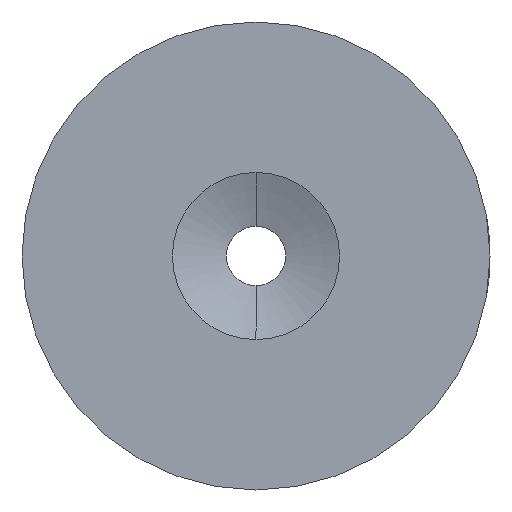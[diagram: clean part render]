
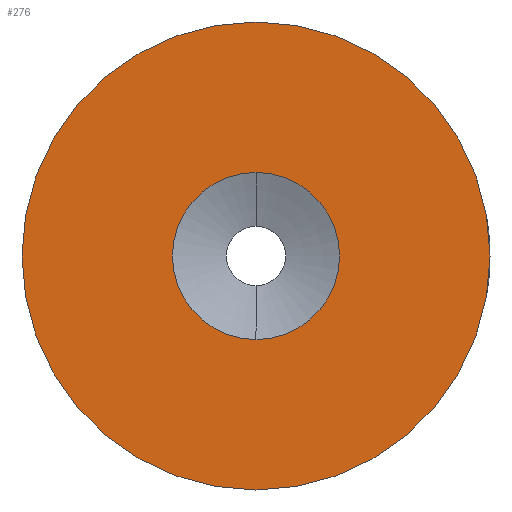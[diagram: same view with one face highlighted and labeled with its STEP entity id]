
A CAD part, left-side view. The second image highlights one B-rep face of the part: STEP entity #276.
In plain terms, the highlighted planar face has unit normal (-1, 0, 0).
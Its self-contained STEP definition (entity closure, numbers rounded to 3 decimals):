
#2 = DIRECTION ( 'NONE',  ( -1., 0., 0. ) ) ;
#11 = ORIENTED_EDGE ( 'NONE', *, *, #148, .T. ) ;
#37 = CARTESIAN_POINT ( 'NONE',  ( 0., 0., -14. ) ) ;
#47 = VERTEX_POINT ( 'NONE', #529 ) ;
#55 = AXIS2_PLACEMENT_3D ( 'NONE', #351, #176, #192 ) ;
#57 = CIRCLE ( 'NONE', #264, 14. ) ;
#63 = CARTESIAN_POINT ( 'NONE',  ( 0., 0., 5. ) ) ;
#64 = VERTEX_POINT ( 'NONE', #63 ) ;
#88 = VERTEX_POINT ( 'NONE', #91 ) ;
#91 = CARTESIAN_POINT ( 'NONE',  ( 0., 0., -5. ) ) ;
#92 = EDGE_CURVE ( 'NONE', #145, #47, #57, .T. ) ;
#96 = DIRECTION ( 'NONE',  ( -1., 0., 0. ) ) ;
#97 = AXIS2_PLACEMENT_3D ( 'NONE', #547, #525, #283 ) ;
#106 = ORIENTED_EDGE ( 'NONE', *, *, #212, .F. ) ;
#119 = EDGE_LOOP ( 'NONE', ( #359, #106 ) ) ;
#145 = VERTEX_POINT ( 'NONE', #37 ) ;
#148 = EDGE_CURVE ( 'NONE', #47, #145, #232, .T. ) ;
#176 = DIRECTION ( 'NONE',  ( -1., 0., 0. ) ) ;
#188 = DIRECTION ( 'NONE',  ( 0., 0., 1. ) ) ;
#192 = DIRECTION ( 'NONE',  ( 0., 0., 1. ) ) ;
#199 = EDGE_LOOP ( 'NONE', ( #11, #429 ) ) ;
#212 = EDGE_CURVE ( 'NONE', #88, #64, #499, .T. ) ;
#222 = CARTESIAN_POINT ( 'NONE',  ( 0., 0., 0. ) ) ;
#232 = CIRCLE ( 'NONE', #55, 14. ) ;
#264 = AXIS2_PLACEMENT_3D ( 'NONE', #356, #2, #188 ) ;
#270 = PLANE ( 'NONE',  #415 ) ;
#276 = ADVANCED_FACE ( 'NONE', ( #313, #404 ), #270, .F. ) ;
#283 = DIRECTION ( 'NONE',  ( 0., 0., 1. ) ) ;
#313 = FACE_BOUND ( 'NONE', #119, .T. ) ;
#326 = EDGE_CURVE ( 'NONE', #64, #88, #439, .T. ) ;
#351 = CARTESIAN_POINT ( 'NONE',  ( 0., 0., 0. ) ) ;
#356 = CARTESIAN_POINT ( 'NONE',  ( 0., 0., 0. ) ) ;
#359 = ORIENTED_EDGE ( 'NONE', *, *, #326, .F. ) ;
#384 = DIRECTION ( 'NONE',  ( 1., 0., 0. ) ) ;
#404 = FACE_OUTER_BOUND ( 'NONE', #199, .T. ) ;
#415 = AXIS2_PLACEMENT_3D ( 'NONE', #509, #384, #516 ) ;
#429 = ORIENTED_EDGE ( 'NONE', *, *, #92, .T. ) ;
#439 = CIRCLE ( 'NONE', #458, 5. ) ;
#458 = AXIS2_PLACEMENT_3D ( 'NONE', #222, #96, #548 ) ;
#499 = CIRCLE ( 'NONE', #97, 5. ) ;
#509 = CARTESIAN_POINT ( 'NONE',  ( 0., 1.75, 0. ) ) ;
#516 = DIRECTION ( 'NONE',  ( 0., 0., -1. ) ) ;
#525 = DIRECTION ( 'NONE',  ( -1., 0., 0. ) ) ;
#529 = CARTESIAN_POINT ( 'NONE',  ( 0., 0., 14. ) ) ;
#547 = CARTESIAN_POINT ( 'NONE',  ( 0., 0., 0. ) ) ;
#548 = DIRECTION ( 'NONE',  ( 0., 0., 1. ) ) ;
